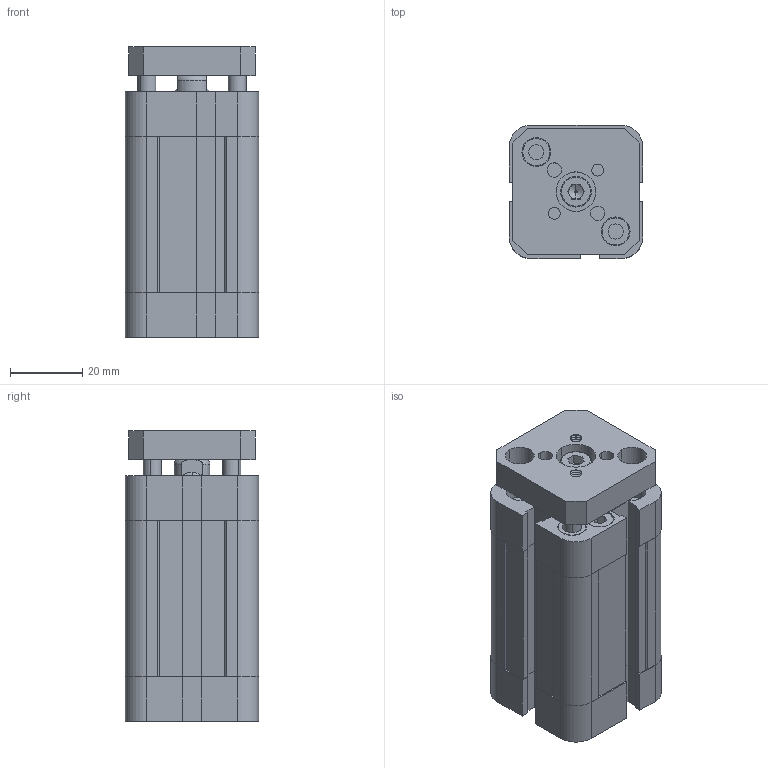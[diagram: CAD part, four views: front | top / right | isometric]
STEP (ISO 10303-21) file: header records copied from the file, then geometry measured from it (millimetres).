
FILE_DESCRIPTION (( 'STEP AP203' ), '1' );
FILE_NAME ('NSKU020.0030 F AR.STEP', '2010-06-16T13:20:03', ( 'Vesta Automation srl' ), ( 'Vesta Automation srl' ), 'SwSTEP 2.0', 'SolidWorks 2009', '' );
FILE_SCHEMA (( 'CONFIG_CONTROL_DESIGN' ));
Length unit declared in the file: millimetre
Products named in the file (7): FRONT END CAP-NSKU 20 AR; ANTI ROTATION STEEM-NSKU20AR_STROKE 0030; NSKU020.0030 F AR; ANTI ROTATION PLATE-NSKU20AR; REAR END CAP-NSKU 20; BARREL-NSKU20AR_STROKE 0030; PISTON ROD-NSKU 020 F_STROKE 0030
Assembly tree (7 placements, depth 2):
  NSKU020.0030 F AR
    FRONT END CAP-NSKU 20 AR
    PISTON ROD-NSKU 020 F_STROKE 0030
    ANTI ROTATION PLATE-NSKU20AR
    ANTI ROTATION STEEM-NSKU20AR_STROKE 0030  x2
    REAR END CAP-NSKU 20
    BARREL-NSKU20AR_STROKE 0030
Bounding box: 37 x 37 x 80.5 mm (x, y, z)
Volume: 80609.1 mm3; surface area: 37197.5 mm2
Topology: 8 solids, 8 shells, 667 faces, 1608 edges, 997 vertices
Faces by surface type: plane 318, cone 209, cylinder 136, torus 4
Entity records: 19960 total; most frequent: DIRECTION 3413, CARTESIAN_POINT 3343, ORIENTED_EDGE 3196, EDGE_CURVE 1598, AXIS2_PLACEMENT_3D 1151, VECTOR 1111, LINE 1111, VERTEX_POINT 991
